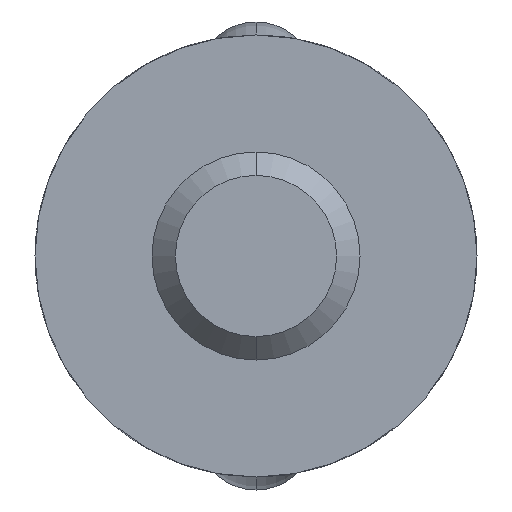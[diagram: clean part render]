
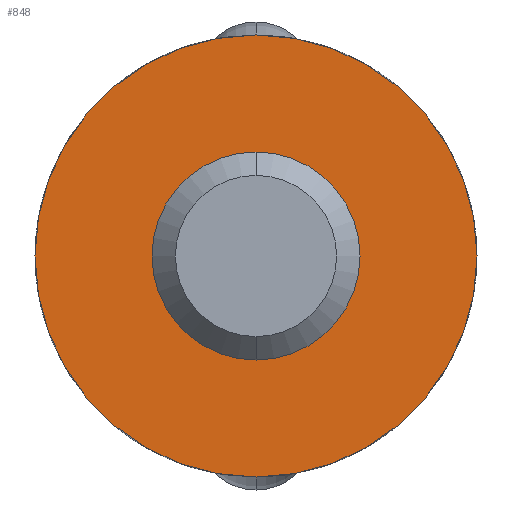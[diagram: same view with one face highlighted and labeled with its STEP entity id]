
A CAD part, front view. The second image highlights one B-rep face of the part: STEP entity #848.
In plain terms, the highlighted planar face has unit normal (0, -1, 0).
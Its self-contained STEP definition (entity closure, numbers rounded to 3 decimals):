
#848=ADVANCED_FACE('',(#1765,#1766),#1767,.F.);
#1765=FACE_OUTER_BOUND('',#8034,.T.);
#1766=FACE_BOUND('',#8035,.T.);
#1767=PLANE('',#8036);
#8034=EDGE_LOOP('',(#12274,#12275));
#8035=EDGE_LOOP('',(#12276,#12277));
#8036=AXIS2_PLACEMENT_3D('',#12278,#12279,#12280);
#12274=ORIENTED_EDGE('',*,*,#13728,.T.);
#12275=ORIENTED_EDGE('',*,*,#13745,.T.);
#12276=ORIENTED_EDGE('',*,*,#13696,.T.);
#12277=ORIENTED_EDGE('',*,*,#13808,.T.);
#12278=CARTESIAN_POINT('',(0.0,-139.0,0.0));
#12279=DIRECTION('',(0.0,1.0,0.0));
#12280=DIRECTION('',(1.0,0.0,-0.0));
#13696=EDGE_CURVE('',#15317,#15321,#15323,.T.);
#13728=EDGE_CURVE('',#15373,#15370,#15374,.T.);
#13745=EDGE_CURVE('',#15370,#15373,#15404,.T.);
#13808=EDGE_CURVE('',#15321,#15317,#15507,.T.);
#15317=VERTEX_POINT('',#23283);
#15321=VERTEX_POINT('',#23287);
#15323=CIRCLE('',#23289,39.85);
#15370=VERTEX_POINT('',#23348);
#15373=VERTEX_POINT('',#23352);
#15374=CIRCLE('',#23353,85.);
#15404=CIRCLE('',#23468,85.);
#15507=CIRCLE('',#23799,39.85);
#23283=CARTESIAN_POINT('',(0.0,-139.0,39.85));
#23287=CARTESIAN_POINT('',(0.,-139.0,-39.85));
#23289=AXIS2_PLACEMENT_3D('',#25778,#25779,#25780);
#23348=CARTESIAN_POINT('',(0.,-139.,-85.));
#23352=CARTESIAN_POINT('',(0.,-139.,85.));
#23353=AXIS2_PLACEMENT_3D('',#25824,#25825,#25826);
#23468=AXIS2_PLACEMENT_3D('',#25838,#25839,#25840);
#23799=AXIS2_PLACEMENT_3D('',#25903,#25904,#25905);
#25778=CARTESIAN_POINT('',(0.0,-139.0,0.0));
#25779=DIRECTION('',(0.0,1.0,0.0));
#25780=DIRECTION('',(0.0,0.0,1.0));
#25824=CARTESIAN_POINT('',(0.,-139.,0.));
#25825=DIRECTION('',(0.0,-1.0,0.0));
#25826=DIRECTION('',(0.0,0.0,-1.0));
#25838=CARTESIAN_POINT('',(0.,-139.,0.));
#25839=DIRECTION('',(0.0,-1.0,0.0));
#25840=DIRECTION('',(0.0,0.0,-1.0));
#25903=CARTESIAN_POINT('',(0.0,-139.0,0.0));
#25904=DIRECTION('',(0.0,1.0,0.0));
#25905=DIRECTION('',(0.0,0.0,1.0));
